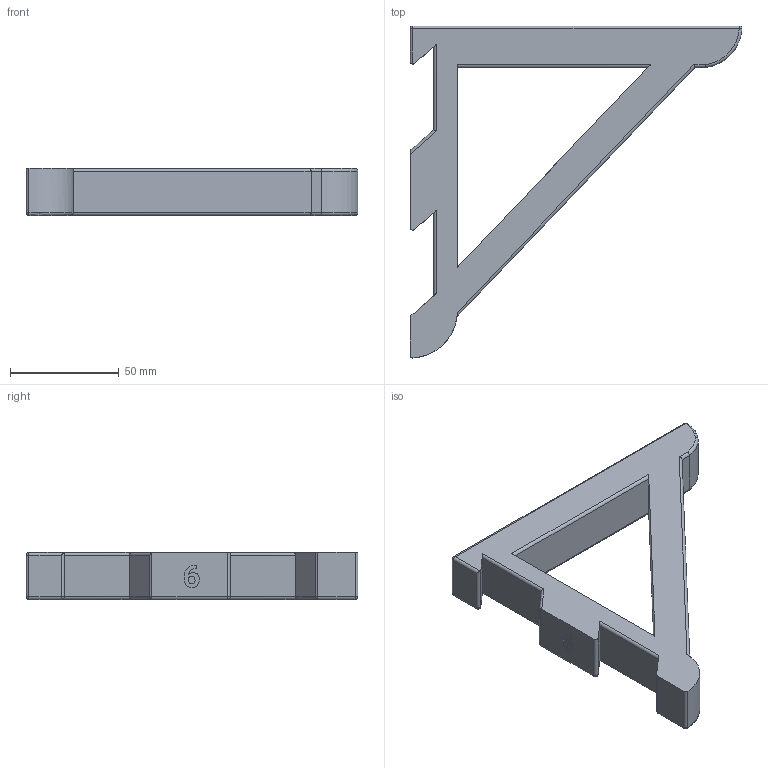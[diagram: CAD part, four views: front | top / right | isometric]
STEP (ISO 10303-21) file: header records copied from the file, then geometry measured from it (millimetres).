
FILE_DESCRIPTION(/* description */ ('STEP AP242','CAx-IF Rec.Pracs.---Representation and Presentation of Product Manufacturing Information (PMI)---4.0---2014-10-13','CAx-IF Rec.Pracs.---3D Tessellated Geometry---0.4---2014-09-14','2;1'),/* implementation_level */ '2;1');
FILE_NAME(/* name */ '677e136c248f3576865290f2',/* time_stamp */ '2025-01-08T05:55:56Z',/* author */ (''),/* organization */ (''),/* preprocessor_version */ 'ST-DEVELOPER v20',/* originating_system */ 'ONSHAPE BY PTC INC, 1.191',/* authorisation */ ' ');
FILE_SCHEMA (('AP242_MANAGED_MODEL_BASED_3D_ENGINEERING_MIM_LF { 1 0 10303 442 1 1 4 }'));
Length unit declared in the file: metre
Products named in the file (1): Shelf Bracket-6
Bounding box: 152.35 x 152.36 x 21.59 mm (x, y, z)
Volume: 150714.9 mm3; surface area: 32323.4 mm2
Topology: 1 solids, 1 shells, 89 faces, 224 edges, 130 vertices
Faces by surface type: cylinder 35, plane 24, bspline 18, sphere 9, torus 3
Entity records: 2658 total; most frequent: CARTESIAN_POINT 650, ORIENTED_EDGE 430, DIRECTION 381, EDGE_CURVE 215, AXIS2_PLACEMENT_3D 134, VERTEX_POINT 130, LINE 113, VECTOR 113
